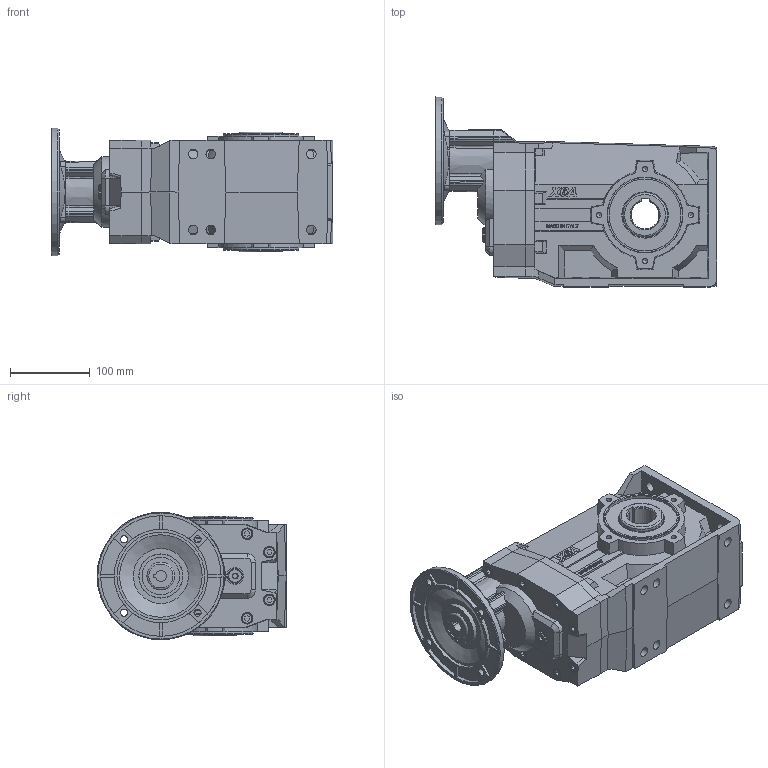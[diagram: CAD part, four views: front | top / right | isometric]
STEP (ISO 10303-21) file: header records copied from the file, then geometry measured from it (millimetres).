
FILE_DESCRIPTION( ( 'Unknown' ), '1' );
FILE_NAME( 'E:/services/configuratordownloads/customers/hydromec/x/download/5ABE14D56A87FC84D65D58B94566D77/STEP/5ABE14D56A87FC84D65D58B94566D77.3d.stp', 'Unknown', ( 'Unknown' ), ( 'Unknown' ), 'PSStep 10.1', 'Unknown', ' ' );
FILE_SCHEMA( ( 'AUTOMOTIVE_DESIGN { 1 0 10303 214 1 1 1 1 }' ) );
Length unit declared in the file: millimetre
Products named in the file (1): X6A8800
Bounding box: 353 x 237.98 x 159.97 mm (x, y, z)
Volume: 5878076.4 mm3; surface area: 363137.8 mm2
Topology: 1 solids, 23 shells, 1065 faces, 2704 edges, 1767 vertices
Faces by surface type: plane 764, cone 129, cylinder 116, torus 21, bspline 19, extrusion 16
Full cylindrical faces by diameter (mm): 4.917 x8, 6 x8, 6.647 x16, 9 x4, 12 x18, 13 x8, 13.5 x1, 18 x1, 19 x1, 21 x1, 35 x2, 47 x2, 55.05 x2, 90 x2, 95 x2, 110 x1
Entity records: 42745 total; most frequent: CARTESIAN_POINT 10004, ORIENTED_EDGE 4784, DIRECTION 4767, EDGE_CURVE 2392, VERTEX_POINT 1672, VECTOR 1665, LINE 1649, AXIS2_PLACEMENT_3D 1551
